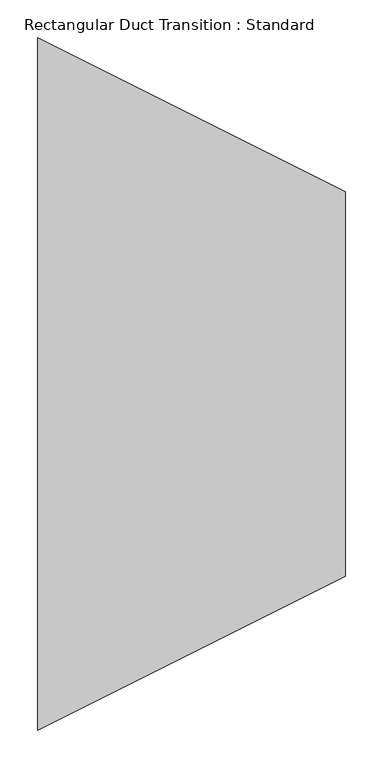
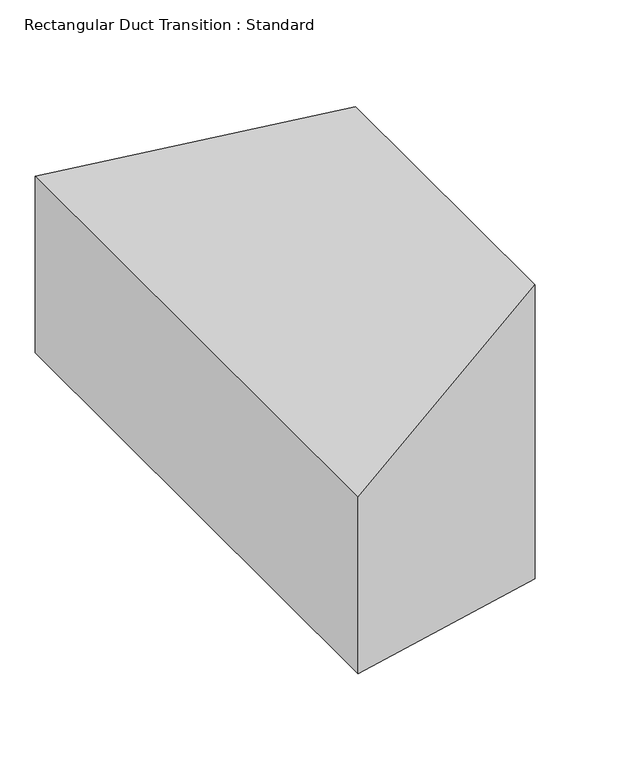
"""IFC4 building model written with IfcOpenShell, lengths in millimetres: duct fitting geometry, Rectangular Duct Transition : Standard."""

from ifc_helpers import new_model, si_unit, origin, place, context, project, spatial, faceted_brep, source, transform, mapped, element, save


def rectangular_duct_transition_standard_a217cb40(model_context):
    return source(origin(), model_context, "Body", "Brep", [
        faceted_brep([(406.4, -254.0, 254.0), (406.4, -254.0, -254.0), (406.4, 254.0, -254.0), (406.4, 254.0, 254.0), (0.0, -457.2, 152.4), (0.0, 457.2, 152.4), (0.0, 457.2, -152.4), (0.0, -457.2, -152.4)], [[[0, 1, 2, 3]], [[4, 5, 6, 7]], [[4, 7, 1, 0]], [[7, 6, 2, 1]], [[6, 5, 3, 2]], [[5, 4, 0, 3]]]),
        faceted_brep([(406.4, -254.0, 254.0), (406.4, -254.0, -254.0), (406.4, 254.0, -254.0), (406.4, 254.0, 254.0), (0.0, -457.2, 152.4), (0.0, 457.2, 152.4), (0.0, 457.2, -152.4), (0.0, -457.2, -152.4)], [[[0, 1, 2, 3]], [[4, 5, 6, 7]], [[4, 7, 1, 0]], [[7, 6, 2, 1]], [[6, 5, 3, 2]], [[5, 4, 0, 3]]]),
        faceted_brep([(406.4, -254.0, 254.0), (406.4, -254.0, -254.0), (406.4, 254.0, -254.0), (406.4, 254.0, 254.0), (0.0, -457.2, 152.4), (0.0, 457.2, 152.4), (0.0, 457.2, -152.4), (0.0, -457.2, -152.4)], [[[0, 1, 2, 3]], [[4, 5, 6, 7]], [[4, 7, 1, 0]], [[7, 6, 2, 1]], [[6, 5, 3, 2]], [[5, 4, 0, 3]]]),
    ])


if __name__ == "__main__":
    model = new_model("IFC4")
    model_context = context("Model", 3, world=origin())
    ifc_project = project(units=[si_unit("LENGTHUNIT", "METRE", prefix="MILLI")], contexts=[model_context])
    site = spatial("IfcSite", under=ifc_project)
    building = spatial("IfcBuilding", under=site)
    placement = place(None, origin())
    rectangular_duct_transition_standard_shape = rectangular_duct_transition_standard_a217cb40(model_context)
    element("IfcDuctFitting", 1, ObjectType="Rectangular Duct Transition : Standard", at=placement, inside=building, context=model_context, shape_type="MappedRepresentation", body=[
        mapped(rectangular_duct_transition_standard_shape, transform((0.0, 0.0, 0.0), x_axis=(1.0, 0.0, 0.0), y_axis=(0.0, 1.0, 0.0), z_axis=(0.0, 0.0, 1.0))),
    ])
    save(model, "model.ifc")
